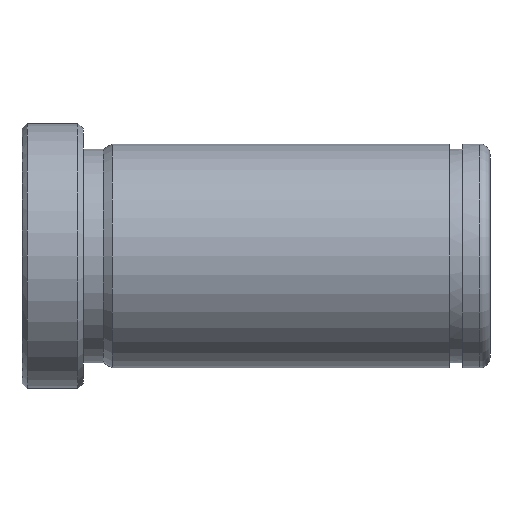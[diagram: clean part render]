
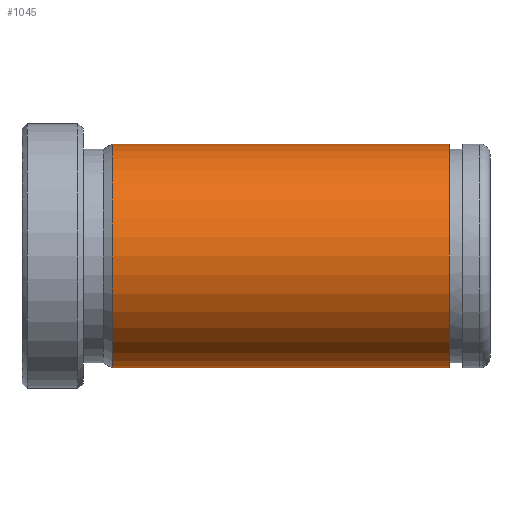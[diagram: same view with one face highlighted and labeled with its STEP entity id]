
A CAD part, front view. The second image highlights one B-rep face of the part: STEP entity #1045.
In plain terms, the highlighted cylindrical face has radius 11 mm (diameter 22 mm), a partial arc.
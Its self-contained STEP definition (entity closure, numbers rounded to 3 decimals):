
#851=CARTESIAN_POINT('Vertex',(8.866,0.,-11.)) ;
#858=CARTESIAN_POINT('Vertex',(8.866,0.,11.)) ;
#887=CARTESIAN_POINT('Axis2P3D Location',(8.866,0.,0.)) ;
#891=CARTESIAN_POINT('Vertex',(8.866,-11.,0.)) ;
#894=CARTESIAN_POINT('Axis2P3D Location',(8.866,0.,0.)) ;
#985=CARTESIAN_POINT('Line Origine',(92.,0.,11.)) ;
#989=CARTESIAN_POINT('Vertex',(42.,0.,11.)) ;
#1003=CARTESIAN_POINT('Vertex',(42.,0.,-11.)) ;
#1006=CARTESIAN_POINT('Line Origine',(92.,0.,-11.)) ;
#1020=CARTESIAN_POINT('Axis2P3D Location',(92.,0.,0.)) ;
#1025=CARTESIAN_POINT('Axis2P3D Location',(42.,0.,0.)) ;
#1029=CARTESIAN_POINT('Vertex',(42.,-11.,0.)) ;
#1032=CARTESIAN_POINT('Axis2P3D Location',(42.,0.,0.)) ;
#888=DIRECTION('Axis2P3D Direction',(1.,0.,-0.)) ;
#895=DIRECTION('Axis2P3D Direction',(1.,0.,-0.)) ;
#986=DIRECTION('Vector Direction',(-1.,0.,0.)) ;
#1007=DIRECTION('Vector Direction',(-1.,0.,0.)) ;
#1021=DIRECTION('Axis2P3D Direction',(-1.,-0.,-0.)) ;
#1022=DIRECTION('Axis2P3D XDirection',(0.,0.,-1.)) ;
#1026=DIRECTION('Axis2P3D Direction',(-1.,-0.,-0.)) ;
#1033=DIRECTION('Axis2P3D Direction',(-1.,-0.,-0.)) ;
#889=AXIS2_PLACEMENT_3D('Circle Axis2P3D',#887,#888,$) ;
#896=AXIS2_PLACEMENT_3D('Circle Axis2P3D',#894,#895,$) ;
#1023=AXIS2_PLACEMENT_3D('Cylinder Axis2P3D',#1020,#1021,#1022) ;
#1027=AXIS2_PLACEMENT_3D('Circle Axis2P3D',#1025,#1026,$) ;
#1034=AXIS2_PLACEMENT_3D('Circle Axis2P3D',#1032,#1033,$) ;
#1038=ORIENTED_EDGE('',*,*,#1010,.T.) ;
#1039=ORIENTED_EDGE('',*,*,#1031,.F.) ;
#1040=ORIENTED_EDGE('',*,*,#1036,.F.) ;
#1041=ORIENTED_EDGE('',*,*,#991,.T.) ;
#1042=ORIENTED_EDGE('',*,*,#898,.T.) ;
#1043=ORIENTED_EDGE('',*,*,#893,.T.) ;
#987=VECTOR('Line Direction',#986,1.) ;
#1008=VECTOR('Line Direction',#1007,1.) ;
#1045=ADVANCED_FACE('553-16X46',(#1044),#1024,.T.) ;
#890=CIRCLE('generated circle',#889,11.) ;
#897=CIRCLE('generated circle',#896,11.) ;
#1028=CIRCLE('generated circle',#1027,11.) ;
#1035=CIRCLE('generated circle',#1034,11.) ;
#1024=CYLINDRICAL_SURFACE('generated cylinder',#1023,11.) ;
#893=EDGE_CURVE('',#892,#852,#890,.T.) ;
#898=EDGE_CURVE('',#859,#892,#897,.T.) ;
#991=EDGE_CURVE('',#990,#859,#988,.T.) ;
#1010=EDGE_CURVE('',#852,#1004,#1009,.F.) ;
#1031=EDGE_CURVE('',#1030,#1004,#1028,.F.) ;
#1036=EDGE_CURVE('',#990,#1030,#1035,.F.) ;
#1037=EDGE_LOOP('',(#1038,#1039,#1040,#1041,#1042,#1043)) ;
#1044=FACE_OUTER_BOUND('',#1037,.T.) ;
#988=LINE('Line',#985,#987) ;
#1009=LINE('Line',#1006,#1008) ;
#852=VERTEX_POINT('',#851) ;
#859=VERTEX_POINT('',#858) ;
#892=VERTEX_POINT('',#891) ;
#990=VERTEX_POINT('',#989) ;
#1004=VERTEX_POINT('',#1003) ;
#1030=VERTEX_POINT('',#1029) ;
